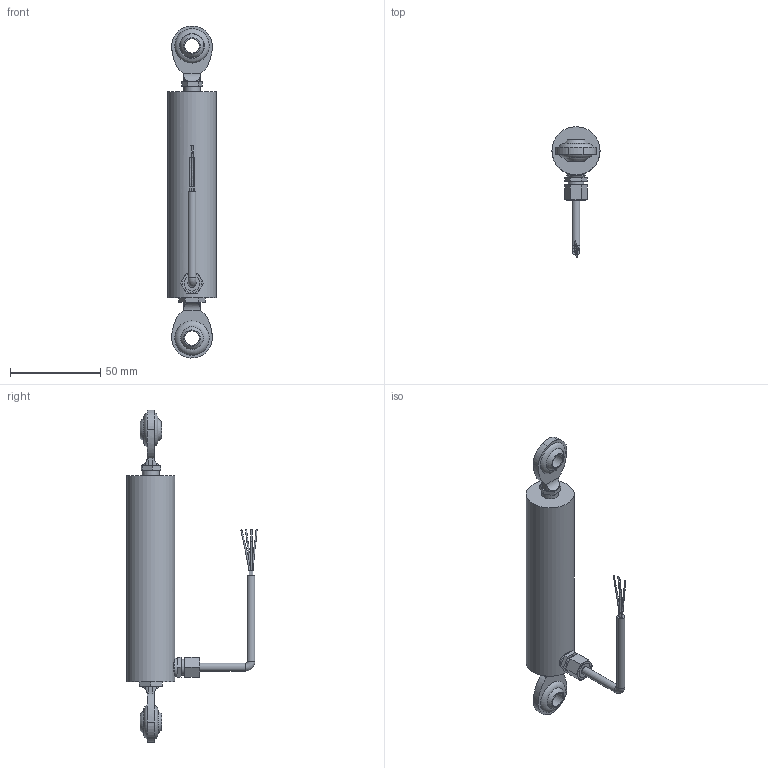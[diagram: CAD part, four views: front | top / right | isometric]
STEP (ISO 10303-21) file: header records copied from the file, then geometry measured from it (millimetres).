
FILE_DESCRIPTION(/* description */ (''),/* implementation_level */ '2;1');
FILE_NAME(/* name */ 'ILPS-27-025-R-00-YY-Z (wrapped).step',/* time_stamp */ '2024-02-08T12:54:55-05:00',/* author */ ('TSC_Grant'),/* organization */ (''),/* preprocessor_version */ 'ST-DEVELOPER v19.2',/* originating_system */ 'Autodesk Inventor 2024',/* authorisation */ '');
FILE_SCHEMA (('AUTOMOTIVE_DESIGN { 1 0 10303 214 3 1 1 }'));
Length unit declared in the file: inch
Products named in the file (4): ILPS-27-100-R-00-50-A (wrapped); ILPS-27-100-R-00-50-A Housing (wrapped); ILPS-27-100-R-00-50-A Shaft (wrapped); LZ-33 Cable
Assembly tree (3 placements, depth 2):
  ILPS-27-100-R-00-50-A (wrapped)
    ILPS-27-100-R-00-50-A Housing (wrapped)
    ILPS-27-100-R-00-50-A Shaft (wrapped)
    LZ-33 Cable
Bounding box: 26.67 x 72.34 x 184.12 mm (x, y, z)
Volume: 67102.2 mm3; surface area: 21872.2 mm2
Topology: 4 solids, 4 shells, 155 faces, 348 edges, 229 vertices
Faces by surface type: plane 78, cylinder 55, bspline 10, torus 6, sphere 4, cone 2
Full cylindrical faces by diameter (mm): 0.635 x4, 0.762 x4, 4.369 x3, 4.572 x2, 6.35 x1, 6.858 x1, 8 x2, 8.712 x2, 9.398 x2, 10.999 x1, 26.67 x1
Entity records: 7341 total; most frequent: CARTESIAN_POINT 3418, DIRECTION 757, ORIENTED_EDGE 696, EDGE_CURVE 348, AXIS2_PLACEMENT_3D 306, VERTEX_POINT 229, EDGE_LOOP 189, STYLED_ITEM 159
